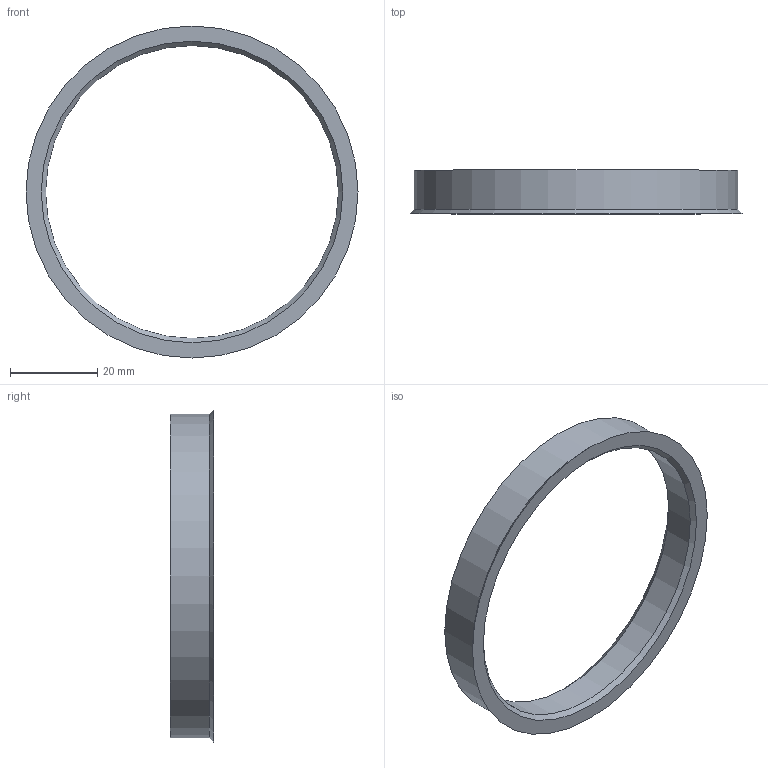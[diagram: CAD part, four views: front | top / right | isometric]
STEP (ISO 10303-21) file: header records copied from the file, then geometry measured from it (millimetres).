
FILE_DESCRIPTION(/* description */ (''),/* implementation_level */ '2;1');
FILE_NAME(/* name */ 'G:\CAD Library\Team Tasks\DIPP\11th Intake\Bradley Coles\Design Drafting\Random\Hub Rings\ipt\HubRing_74.1-67.1.stp',/* time_stamp */ '2025-07-22T13:43:19+08:00',/* author */ ('BCOLES'),/* organization */ (''),/* preprocessor_version */ 'ST-DEVELOPER v18.1',/* originating_system */ 'Autodesk Inventor 2022',/* authorisation */ '');
FILE_SCHEMA (('AUTOMOTIVE_DESIGN { 1 0 10303 214 3 1 1 }'));
Length unit declared in the file: millimetre
Products named in the file (1): HubRing_74.1-67.1
Bounding box: 76.1 x 10 x 76.1 mm (x, y, z)
Volume: 7343.9 mm3; surface area: 5961.4 mm2
Topology: 1 solids, 1 shells, 7 faces, 13 edges, 8 vertices
Faces by surface type: cone 3, cylinder 2, plane 2
Full cylindrical faces by diameter (mm): 67.1 x1, 74.1 x1
Entity records: 226 total; most frequent: DIRECTION 37, CARTESIAN_POINT 29, ORIENTED_EDGE 26, AXIS2_PLACEMENT_3D 16, EDGE_CURVE 13, EDGE_LOOP 9, CIRCLE 8, VERTEX_POINT 8
